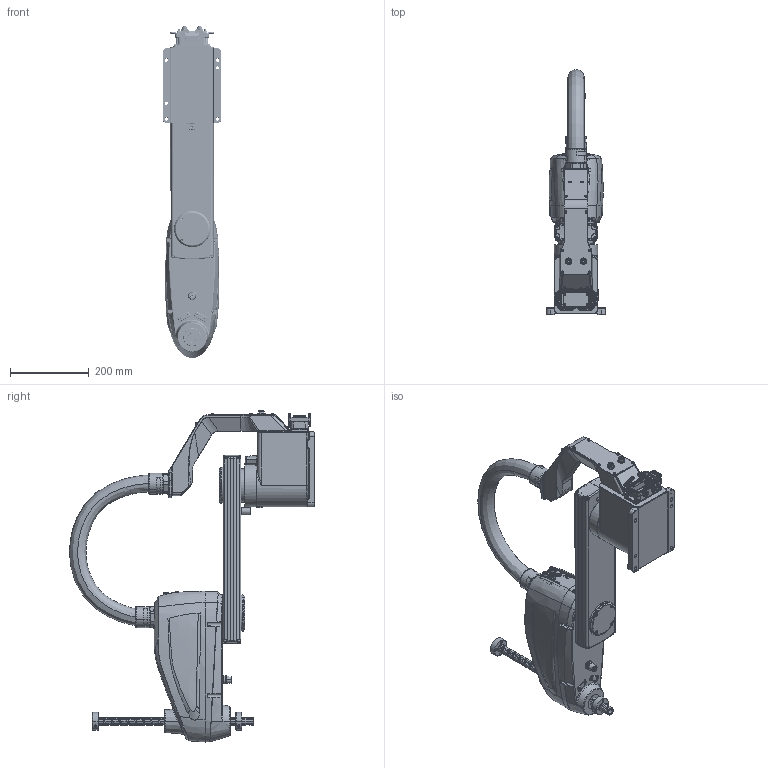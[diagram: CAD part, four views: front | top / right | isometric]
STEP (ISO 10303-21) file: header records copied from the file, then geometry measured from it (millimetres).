
FILE_DESCRIPTION (( 'STEP AP214' ), '1' );
FILE_NAME ('MB07SC-600.STEP', '2026-01-17T01:54:53', ( '' ), ( '' ), 'SwSTEP 2.0', 'SolidWorks 2020', '' );
FILE_SCHEMA (( 'AUTOMOTIVE_DESIGN' ));
Length unit declared in the file: millimetre
Products named in the file (5): MB07SC-620000 J2軞傖; MB07SC-630000 J3郪璃; MB07SC-440000 J4郪璃; MB07SC-610000 J1軞傖; MB07SC-600
Assembly tree (4 placements, depth 2):
  MB07SC-600
    MB07SC-610000 J1軞傖
    MB07SC-620000 J2軞傖
    MB07SC-630000 J3郪璃
    MB07SC-440000 J4郪璃
Bounding box: 150 x 623.88 x 844.57 mm (x, y, z)
Volume: 14172029.2 mm3; surface area: 963424.8 mm2
Topology: 4 solids, 34 shells, 4839 faces, 12988 edges, 8343 vertices
Faces by surface type: cylinder 1747, plane 1697, bspline 1020, cone 371, torus 4
Entity records: 260659 total; most frequent: CARTESIAN_POINT 128100, ORIENTED_EDGE 25506, DIRECTION 19196, EDGE_CURVE 12753, VERTEX_POINT 8343, AXIS2_PLACEMENT_3D 7070, EDGE_LOOP 5374, LINE 5056
